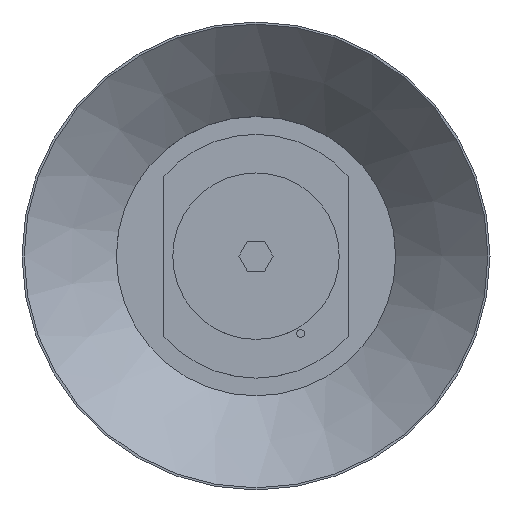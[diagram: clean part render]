
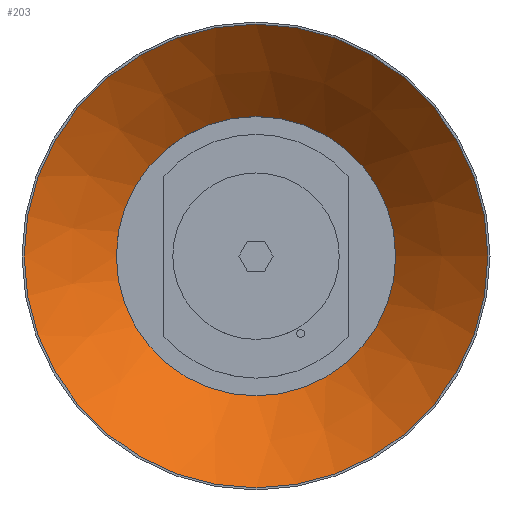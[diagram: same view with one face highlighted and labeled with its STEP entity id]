
A CAD part, top view. The second image highlights one B-rep face of the part: STEP entity #203.
In plain terms, the highlighted conical face has half-angle 46.143 degrees and reference radius 62.5 mm.
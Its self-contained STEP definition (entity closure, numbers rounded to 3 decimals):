
#121=CARTESIAN_POINT('',(47.0,0.0,17.213));
#122=VERTEX_POINT('',#121);
#123=CARTESIAN_POINT('',(0.0,0.0,17.213));
#124=DIRECTION('',(0.0,0.0,1.0));
#125=DIRECTION('',(1.0,0.0,0.0));
#126=AXIS2_PLACEMENT_3D('',#123,#124,#125);
#127=CIRCLE('',#126,47.0);
#128=EDGE_CURVE('',#122,#122,#127,.T.);
#180=CARTESIAN_POINT('',(78.,0.0,47.));
#181=VERTEX_POINT('',#180);
#182=CARTESIAN_POINT('',(0.0,0.0,47.));
#183=DIRECTION('',(0.0,0.0,1.0));
#184=DIRECTION('',(1.0,0.0,0.0));
#185=AXIS2_PLACEMENT_3D('',#182,#183,#184);
#186=CIRCLE('',#185,78.);
#187=EDGE_CURVE('',#181,#181,#186,.T.);
#192=CARTESIAN_POINT('',(0.0,0.0,32.106));
#193=DIRECTION('',(0.0,0.0,1.0));
#194=DIRECTION('',(1.0,0.0,0.0));
#195=AXIS2_PLACEMENT_3D('',#192,#193,#194);
#196=CONICAL_SURFACE('',#195,62.5,46.143);
#197=ORIENTED_EDGE('',*,*,#128,.F.);
#198=EDGE_LOOP('',(#197));
#199=FACE_OUTER_BOUND('',#198,.T.);
#200=ORIENTED_EDGE('',*,*,#187,.T.);
#201=EDGE_LOOP('',(#200));
#202=FACE_BOUND('',#201,.T.);
#203=ADVANCED_FACE('',(#199,#202),#196,.F.);
